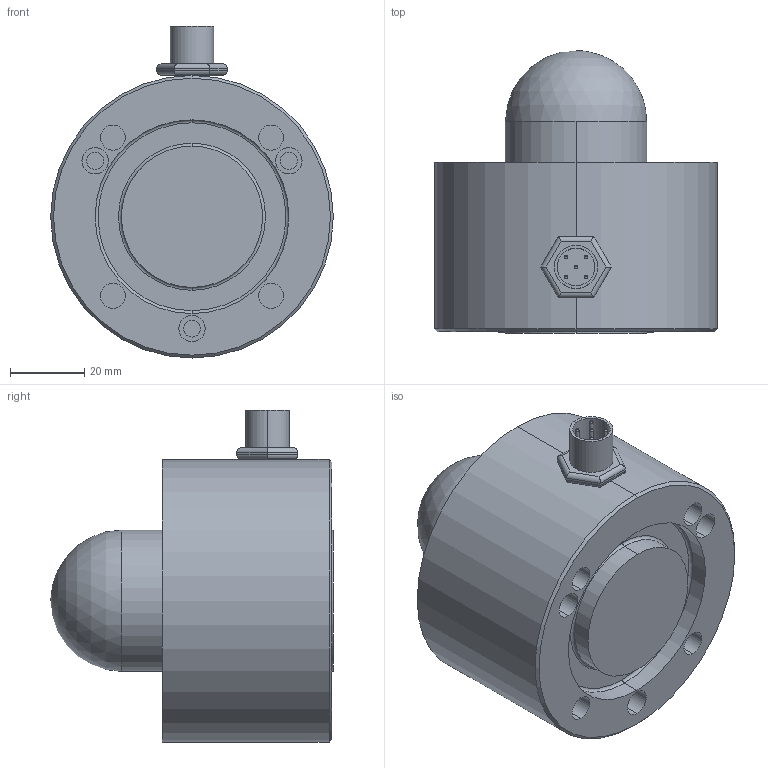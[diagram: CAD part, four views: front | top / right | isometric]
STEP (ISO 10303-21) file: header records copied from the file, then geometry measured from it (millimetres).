
FILE_DESCRIPTION (( 'STEP AP214' ), '1' );
FILE_NAME ('FINAL ASBY SS1660-100KLB.STEP', '2024-08-12T14:35:30', ( '' ), ( '' ), 'SwSTEP 2.0', 'SolidWorks 2008', '' );
FILE_SCHEMA (( 'AUTOMOTIVE_DESIGN' ));
Length unit declared in the file: inch
Products named in the file (1): FINAL ASBY SS1660-100KLB
Bounding box: 76.2 x 76.2 x 89.53 mm (x, y, z)
Volume: 229348.4 mm3; surface area: 26594.2 mm2
Topology: 2 solids, 2 shells, 95 faces, 213 edges, 131 vertices
Faces by surface type: cylinder 54, plane 24, sphere 11, torus 4, cone 2
Entity records: 2522 total; most frequent: DIRECTION 474, CARTESIAN_POINT 441, ORIENTED_EDGE 380, AXIS2_PLACEMENT_3D 200, EDGE_CURVE 190, VERTEX_POINT 119, EDGE_LOOP 115, CIRCLE 104
